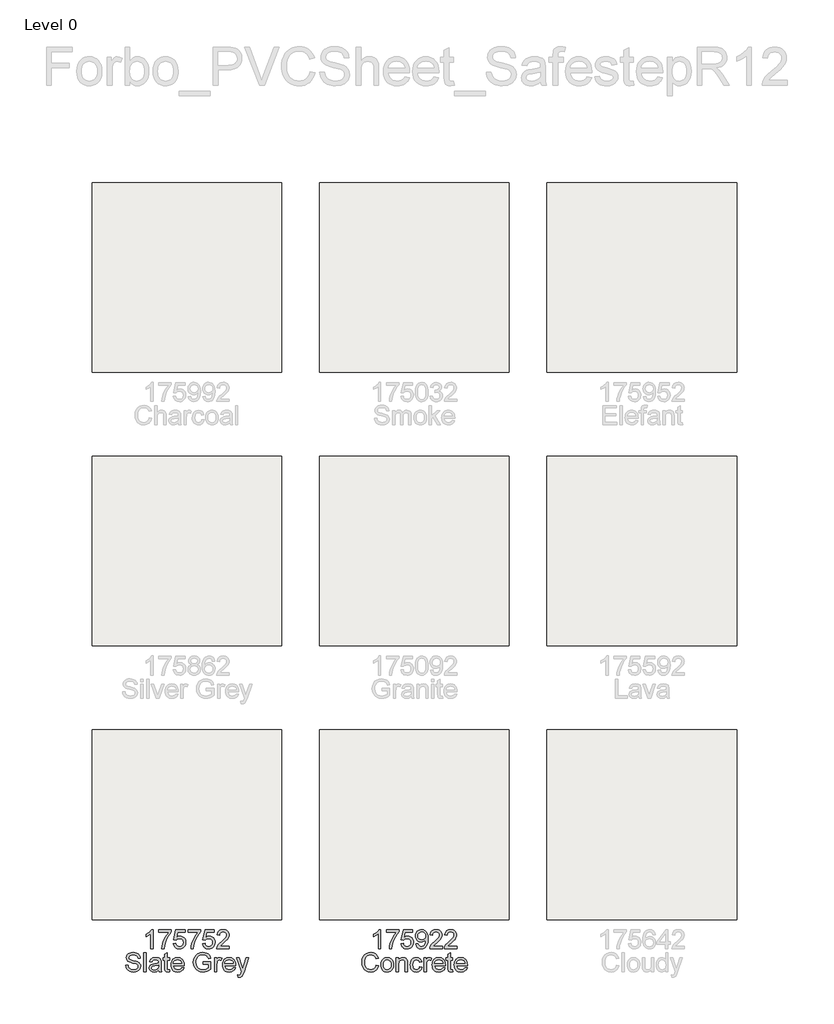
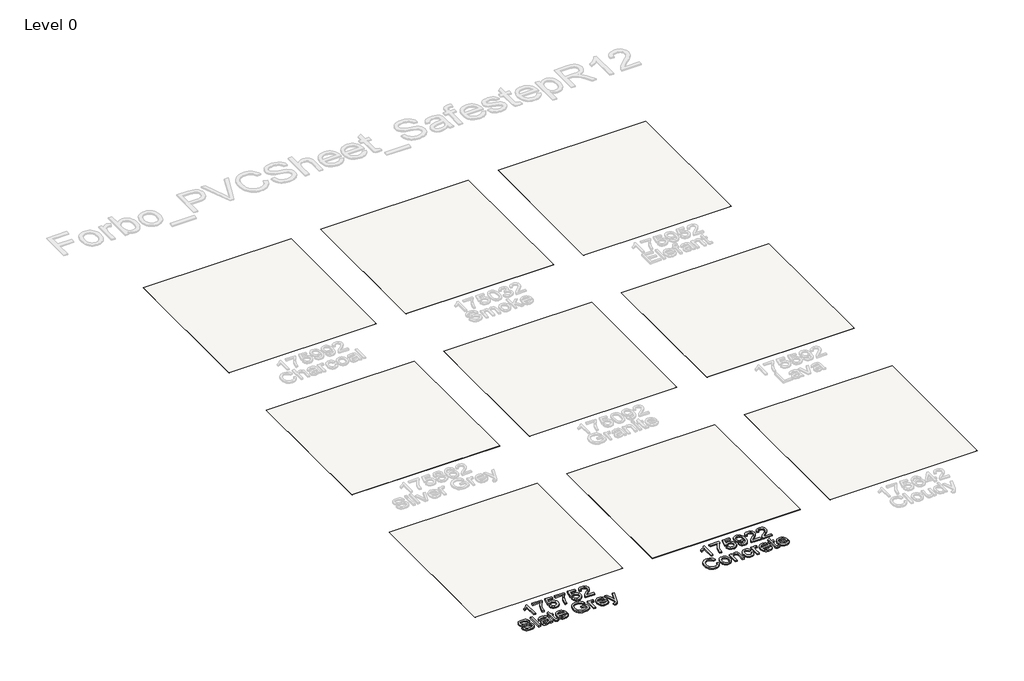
# One storey, part 1 of 5: 9 coverings, 2 proxies.
"""IFC4 building model written with IfcOpenShell, lengths in millimetres."""

from ifc_helpers import new_model, si_unit, frame, origin, origin_with_axes, place, context, project, spatial, polyline, outline, extrude, element, save

model = new_model("IFC4")

# Units and contexts
model_context = context("Model", 3, world=origin())
ifc_project = project(units=[si_unit("LENGTHUNIT", "METRE", prefix="MILLI")], contexts=[model_context])

# Site, building, storey
site = spatial("IfcSite", under=ifc_project)
building = spatial("IfcBuilding", under=site)
storey = spatial("IfcBuildingStorey", under=building, Name="Level 0", Elevation=0.0)

# Proxies
placement = place(None, origin())
element("IfcBuildingElementProxy", 1, Name="Floor Name", ObjectType="Floor Name", at=placement, inside=storey, context=model_context, shape_type="SweptSolid", body=[
    extrude(outline(polyline([(20690.377598, -11200.5851985), (20652.7064817, -11200.5851985), (20652.7064817, -10965.7293328), (20617.0219282, -10991.1499786), (20577.3642491, -11010.1694778), (20577.3642491, -10974.5585007), (20606.9511586, -10958.4636634), (20632.5833366, -10939.3154055), (20652.7892552, -10918.9531371), (20666.0973864, -10899.216268), (20690.377598, -10899.216268), (20690.377598, -11200.5851985)])), origin_with_axes(), (0.0, 0.0, 1.0), 25.0),
    extrude(outline(polyline([(20779.8464993, -10941.5962739), (20779.8464993, -10903.9251576), (20977.6198599, -10903.9251576), (20977.6198599, -10934.3857868), (20949.430902, -10970.0611433), (20921.5178556, -11015.4301903), (20896.8973531, -11066.3542555), (20878.5860268, -11118.6946664), (20869.6097061, -11157.8557047), (20864.606511, -11200.5851985), (20826.9353947, -11200.5851985), (20831.0096878, -11161.7552539), (20841.9081919, -11115.6044576), (20859.3366014, -11066.6853493), (20883.0006107, -11019.5504687), (20910.6285486, -10976.9405366), (20939.9487436, -10941.5962739), (20779.8464993, -10941.5962739)])), origin_with_axes(), (0.0, 0.0, 1.0), 25.0),
    extrude(outline(polyline([(21010.5820866, -11120.5340763), (21048.253203, -11115.8251868), (21055.1693845, -11138.4407325), (21067.2359139, -11154.6367373), (21084.397609, -11164.3764131), (21106.5992874, -11167.6229717), (21133.6018258, -11163.1072202), (21153.8353356, -11149.5599658), (21166.4720821, -11128.5447068), (21170.6843309, -11101.6249418), (21166.7387965, -11076.2778723), (21154.9021934, -11056.8904912), (21135.0825509, -11044.5848384), (21107.1878986, -11040.4829542), (21088.9133605, -11042.1200291), (21074.1153072, -11047.0312537), (21052.9620925, -11064.0274019), (21015.2909762, -11059.3185123), (21048.253203, -10903.9251576), (21194.2287786, -10903.9251576), (21194.2287786, -10941.5962739), (21078.7138322, -10941.5962739), (21062.6006008, -11024.590452), (21089.5111687, -11008.2564914), (21117.7093236, -11002.8118379), (21136.0551389, -11004.4994965), (21152.9064335, -11009.5624725), (21168.2632076, -11018.0007658), (21182.125461, -11029.8143763), (21193.60108, -11044.2813358), (21201.7979507, -11060.6796757), (21206.7160731, -11079.0093961), (21208.3554473, -11099.270497), (21202.4509412, -11136.9416133), (21195.0703087, -11153.7354264), (21184.7374232, -11169.1680761), (21169.0840443, -11184.9732063), (21150.8187032, -11196.262585), (21129.9414, -11203.0362123), (21106.4521346, -11205.294088), (21069.4524029, -11199.4907496), (21053.7737321, -11192.2365765), (21039.9758581, -11182.0807341), (21028.4956405, -11169.5290603), (21019.7699395, -11155.0873927), (21010.5820866, -11120.5340763)])), origin_with_axes(), (0.0, 0.0, 1.0), 25.0),
    extrude(outline(polyline([(21241.317674, -10941.5962739), (21241.317674, -10903.9251576), (21439.0910346, -10903.9251576), (21439.0910346, -10934.3857868), (21410.9020767, -10970.0611433), (21382.9890304, -11015.4301903), (21358.3685278, -11066.3542555), (21340.0572015, -11118.6946664), (21331.0808808, -11157.8557047), (21326.0776857, -11200.5851985), (21288.4065694, -11200.5851985), (21292.4808625, -11161.7552539), (21303.3793666, -11115.6044576), (21320.8077761, -11066.6853493), (21344.4717855, -11019.5504687), (21372.0997233, -10976.9405366), (21401.4199183, -10941.5962739), (21241.317674, -10941.5962739)])), origin_with_axes(), (0.0, 0.0, 1.0), 25.0),
    extrude(outline(polyline([(21472.0532614, -11120.5340763), (21509.7243777, -11115.8251868), (21516.6405592, -11138.4407325), (21528.7070887, -11154.6367373), (21545.8687837, -11164.3764131), (21568.0704621, -11167.6229717), (21595.0730006, -11163.1072202), (21615.3065103, -11149.5599658), (21627.9432569, -11128.5447068), (21632.1555057, -11101.6249418), (21628.2099713, -11076.2778723), (21616.3733681, -11056.8904912), (21596.5537256, -11044.5848384), (21568.6590733, -11040.4829542), (21550.3845352, -11042.1200291), (21535.586482, -11047.0312537), (21514.4332672, -11064.0274019), (21476.7621509, -11059.3185123), (21509.7243777, -10903.9251576), (21655.6999534, -10903.9251576), (21655.6999534, -10941.5962739), (21540.1850069, -10941.5962739), (21524.0717755, -11024.590452), (21550.9823435, -11008.2564914), (21579.1804984, -11002.8118379), (21597.5263136, -11004.4994965), (21614.3776083, -11009.5624725), (21629.7343823, -11018.0007658), (21643.5966357, -11029.8143763), (21655.0722547, -11044.2813358), (21663.2691254, -11060.6796757), (21668.1872479, -11079.0093961), (21669.826622, -11099.270497), (21663.922116, -11136.9416133), (21656.5414835, -11153.7354264), (21646.2085979, -11169.1680761), (21630.555219, -11184.9732063), (21612.289878, -11196.262585), (21591.4125747, -11203.0362123), (21567.9233093, -11205.294088), (21530.9235777, -11199.4907496), (21515.2449069, -11192.2365765), (21501.4470328, -11182.0807341), (21489.9668153, -11169.5290603), (21481.2411142, -11155.0873927), (21472.0532614, -11120.5340763)])), origin_with_axes(), (0.0, 0.0, 1.0), 25.0),
    extrude(outline(polyline([(21895.8533198, -11162.9140822), (21895.8533198, -11200.5851985), (21698.0799592, -11200.5851985), (21702.1266612, -11174.6127296), (21711.4156816, -11154.3148405), (21725.0089213, -11134.6239568), (21744.6722139, -11114.013368), (21772.1713931, -11090.9563639), (21812.8223535, -11054.8487461), (21837.2129298, -11028.1956955), (21849.4082179, -11006.5642342), (21853.473314, -10985.5213841), (21849.6381442, -10966.6582348), (21838.1326348, -10950.9772648), (21820.4467079, -10940.4098544), (21798.0702855, -10936.8873843), (21774.5718231, -10940.327081), (21756.3156791, -10950.646171), (21744.5342582, -10967.0353138), (21740.4599651, -10988.6851693), (21702.7888488, -10983.9762797), (21711.9215193, -10947.5375681), (21720.4678779, -10933.0016308), (21731.6675854, -10920.9213058), (21745.2631244, -10911.4253518), (21760.9969775, -10904.6425275), (21798.8796259, -10899.216268), (21819.0694497, -10900.7245842), (21837.0381859, -10905.2495328), (21852.7858345, -10912.7911137), (21866.3123956, -10923.3493269), (21877.1764108, -10936.1424233), (21884.9364216, -10950.3886536), (21889.5924281, -10966.0880177), (21891.1444303, -10983.2405157), (21889.4705672, -11001.2575365), (21884.448978, -11018.9618575), (21875.5370367, -11036.9696811), (21862.1921173, -11055.8972098), (21840.9193409, -11078.4943613), (21808.2238286, -11107.5110537), (21764.8873296, -11143.7474302), (21747.8911814, -11162.9140822), (21895.8533198, -11162.9140822)])), origin_with_axes(), (0.0, 0.0, 1.0), 25.0),
    extrude(outline(polyline([(20257.1597605, -11462.9140822), (20294.8308768, -11462.9140822), (20299.1534903, -11483.8189766), (20306.9709827, -11500.6219867), (20319.1662708, -11513.957709), (20336.6222715, -11524.46074), (20357.9594272, -11531.2757539), (20381.7981805, -11533.5474253), (20402.7858483, -11531.8275769), (20421.161554, -11526.6680319), (20436.0515777, -11518.5010517), (20446.5821998, -11507.7588974), (20452.8453908, -11495.4256535), (20454.9331211, -11482.4854043), (20453.3696227, -11469.8762489), (20448.6791272, -11458.9777448), (20439.1509835, -11449.6795274), (20423.0745403, -11441.8712321), (20368.2233349, -11427.487046), (20332.2168846, -11417.9680994), (20309.1782746, -11408.9090053), (20290.4254899, -11396.2354706), (20277.1357529, -11380.8763973), (20269.2170929, -11363.1628792), (20266.5775396, -11343.4260101), (20269.8424923, -11321.3622875), (20279.6373504, -11300.7884869), (20295.7045966, -11283.3508803), (20317.7867133, -11270.6957397), (20344.2926111, -11262.997809), (20373.6312002, -11260.431832), (20405.4162046, -11263.1173706), (20433.2280834, -11271.1739863), (20456.0735553, -11284.4361322), (20472.9593389, -11302.7382615), (20483.6463109, -11324.9399399), (20487.8953479, -11349.9007333), (20450.2242316, -11349.9007333), (20443.3080501, -11327.4231434), (20428.8870759, -11311.1995474), (20406.3543037, -11301.3770981), (20375.1027282, -11298.1029483), (20343.1153887, -11301.3403099), (20321.1712277, -11311.0523946), (20308.4792989, -11325.3446101), (20304.2486559, -11342.3223642), (20307.2468942, -11356.7985207), (20316.241609, -11368.4419858), (20337.5051883, -11378.8530463), (20377.7514785, -11389.4848359), (20419.2853558, -11399.5831967), (20444.4116961, -11408.3939705), (20465.8868075, -11422.0607866), (20480.8688018, -11438.9281761), (20489.6703785, -11458.8121979), (20492.6042374, -11481.5289111), (20489.2289201, -11504.7514621), (20479.1029682, -11526.5944555), (20462.6402489, -11545.3932255), (20440.2546295, -11559.4831059), (20413.3348645, -11568.2846827), (20383.2697085, -11571.2185416), (20346.3619473, -11568.0547564), (20315.9840916, -11558.5634009), (20291.7866533, -11542.7076869), (20273.4201447, -11520.4508262), (20261.6295268, -11493.3379232), (20257.1597605, -11462.9140822)])), origin_with_axes(), (0.0, 0.0, 1.0), 25.0),
    extrude(outline(polyline([(20544.4020224, -11566.509652), (20544.4020224, -11265.1407216), (20582.0731387, -11265.1407216), (20582.0731387, -11566.509652), (20544.4020224, -11566.509652)])), origin_with_axes(), (0.0, 0.0, 1.0), 25.0),
    extrude(outline(polyline([(20779.8464993, -11538.2563148), (20761.8478727, -11553.6889645), (20743.3158172, -11563.7873253), (20723.8272685, -11569.3607375), (20702.9591623, -11571.2185416), (20671.4776605, -11566.7487753), (20648.2551096, -11553.3394766), (20633.9353029, -11532.9772082), (20629.162034, -11507.6485328), (20630.9646558, -11492.0319421), (20636.3725212, -11477.8500912), (20644.7142454, -11465.7099853), (20655.3184439, -11456.2186299), (20681.695583, -11443.8577948), (20714.2899277, -11438.1924121), (20752.8071726, -11432.2327238), (20779.6257701, -11425.2429659), (20779.8464993, -11416.8552564), (20777.2529312, -11400.0430492), (20769.472227, -11389.0433776), (20752.0714086, -11380.8763973), (20727.8279852, -11378.1540705), (20705.3871834, -11379.9658893), (20689.7154105, -11385.4013458), (20679.0284385, -11395.4537213), (20671.5420399, -11411.1162973), (20633.8709236, -11406.4074077), (20640.4100261, -11385.806016), (20650.168096, -11369.6192082), (20664.0556413, -11357.2399791), (20682.9831699, -11348.0613233), (20706.1321445, -11342.3775465), (20732.6840275, -11340.4829542), (20758.1506586, -11342.1568173), (20778.3381831, -11347.1784065), (20793.5593006, -11354.7291845), (20804.126711, -11363.9906137), (20811.134863, -11375.4409408), (20815.6782056, -11389.5584123), (20817.5176156, -11422.5206391), (20817.5176156, -11469.3888053), (20819.430602, -11534.8350122), (20826.9353947, -11566.509652), (20789.2642783, -11566.509652), (20779.8464993, -11538.2563148)]), holes=[polyline([(20779.8464993, -11462.9140822), (20719.0723937, -11474.4655768), (20686.6619899, -11480.572418), (20671.9834983, -11490.5052318), (20666.8331504, -11504.9997824), (20669.6382506, -11516.2017892), (20678.0535512, -11525.380445), (20691.8951113, -11531.5056802), (20710.9789898, -11533.5474253), (20731.2124995, -11531.294148), (20749.0915645, -11524.5343164), (20763.5861151, -11514.5739114), (20773.6660818, -11502.7189141), (20778.135848, -11490.5052318), (20779.6257701, -11473.58266), (20779.8464993, -11462.9140822)])]), origin_with_axes(), (0.0, 0.0, 1.0), 25.0),
    extrude(outline(polyline([(20949.3665226, -11535.0925296), (20954.0754122, -11567.613298), (20925.8956514, -11571.2185416), (20907.8142513, -11569.6550431), (20894.3313762, -11564.9645476), (20884.8032325, -11557.7356664), (20878.5860268, -11548.5570107), (20875.1647242, -11532.7932672), (20874.02429, -11505.8091228), (20874.02429, -11382.86296), (20845.7709528, -11382.86296), (20845.7709528, -11345.1918437), (20874.02429, -11345.1918437), (20874.02429, -11291.407496), (20911.6954063, -11269.2609999), (20911.6954063, -11345.1918437), (20949.3665226, -11345.1918437), (20949.3665226, -11382.86296), (20911.6954063, -11382.86296), (20911.6954063, -11504.7054768), (20913.6819691, -11524.1296462), (20920.119904, -11531.0090395), (20932.9589857, -11533.5474253), (20949.3665226, -11535.0925296)])), origin_with_axes(), (0.0, 0.0, 1.0), 25.0),
    extrude(outline(polyline([(21141.9895353, -11500.5851985), (21178.9248876, -11505.294088), (21165.6167565, -11533.124361), (21144.3807683, -11553.9280878), (21115.6951697, -11566.8959281), (21080.0382073, -11571.2185416), (21056.6639051, -11569.3538397), (21035.8371856, -11563.7597341), (21017.558049, -11554.4362248), (21001.8264952, -11541.3833118), (20989.1759531, -11524.9642785), (20980.1398515, -11505.5424084), (20974.7181906, -11483.1177015), (20972.9109703, -11457.6901579), (20974.7365847, -11431.4003908), (20980.2134279, -11408.2284236), (20989.3415, -11388.1742563), (21002.1208008, -11371.237889), (21017.8109679, -11357.782605), (21035.6716387, -11348.1716879), (21055.7028134, -11342.4051376), (21077.9044918, -11340.4829542), (21099.3910995, -11342.4005391), (21118.8221667, -11348.1532938), (21136.1976932, -11357.7412183), (21151.517679, -11371.1643126), (21164.0233676, -11388.0638917), (21172.9560023, -11408.0812708), (21178.3155831, -11431.2164498), (21180.10211, -11457.4694287), (21179.8813808, -11467.6229717), (21010.5820866, -11467.6229717), (21017.102795, -11495.8211267), (21032.2503362, -11516.5512771), (21054.1117237, -11529.2983882), (21080.7739713, -11533.5474253), (21100.8235401, -11531.5792566), (21117.7093236, -11525.6747506), (21131.4313221, -11515.4660252), (21141.9895353, -11500.5851985)]), holes=[polyline([(21010.5820866, -11429.9518554), (21142.4309937, -11429.9518554), (21137.3358281, -11410.0494395), (21127.3478319, -11395.8124063), (21105.3852768, -11382.5686544), (21077.757339, -11378.1540705), (21052.3642842, -11381.6765406), (21031.3674194, -11392.2439509), (21016.7717012, -11408.7158672), (21010.5820866, -11429.9518554)])]), origin_with_axes(), (0.0, 0.0, 1.0), 25.0),
    extrude(outline(polyline([(21481.4710405, -11448.7874136), (21481.4710405, -11411.1162973), (21603.9021685, -11411.1162973), (21603.9021685, -11523.7617642), (21574.1497121, -11544.4551264), (21543.4591567, -11559.2991649), (21511.9040785, -11568.2386974), (21479.5580541, -11571.2185416), (21437.2976099, -11566.4820609), (21399.1022618, -11552.2726188), (21367.3724397, -11529.0868561), (21344.5085737, -11497.4214133), (21330.6854077, -11459.4375973), (21326.0776857, -11417.2967148), (21330.6670136, -11374.8523296), (21344.4349973, -11335.3693945), (21366.8114196, -11302.2508178), (21397.2260636, -11278.8995082), (21434.2717805, -11265.0487511), (21476.5414217, -11260.431832), (21507.572268, -11263.1081736), (21535.4761174, -11271.1371981), (21558.9745798, -11283.9394915), (21576.7892654, -11300.9356397), (21589.9686379, -11322.9441801), (21599.5611609, -11350.7836501), (21564.8331006, -11360.5693111), (21557.0799875, -11340.7128804), (21547.6530114, -11325.7308862), (21535.1818118, -11314.4369089), (21518.2960282, -11305.6445292), (21498.163686, -11299.9883436), (21475.9528105, -11298.1029483), (21449.9527505, -11300.1354964), (21427.723481, -11306.2331404), (21409.3477753, -11315.6325254), (21394.908407, -11327.5702962), (21375.5210259, -11356.5961856), (21366.691858, -11385.0334638), (21363.748802, -11415.7516104), (21367.2896662, -11451.7764548), (21377.9122588, -11481.4185465), (21395.2946831, -11504.4663535), (21419.1150423, -11520.7083436), (21446.9913005, -11530.3376548), (21476.5414217, -11533.5474253), (21502.6334522, -11531.1286011), (21528.0816893, -11523.8721288), (21550.1822001, -11513.8749356), (21566.2310522, -11503.2339489), (21566.2310522, -11448.7874136), (21481.4710405, -11448.7874136)])), origin_with_axes(), (0.0, 0.0, 1.0), 25.0),
    extrude(outline(polyline([(21660.4088429, -11566.509652), (21660.4088429, -11345.1918437), (21693.3710697, -11345.1918437), (21693.3710697, -11377.9333413), (21705.5479637, -11358.9506303), (21716.7683646, -11347.7670177), (21728.0255536, -11342.3039701), (21740.3128123, -11340.4829542), (21759.074794, -11343.3892219), (21778.1310814, -11352.1080252), (21765.5495171, -11385.8795924), (21752.3057653, -11380.085451), (21739.0620135, -11378.1540705), (21727.8140215, -11380.0118746), (21717.761646, -11385.5852868), (21709.6406509, -11394.4512429), (21704.1868004, -11406.1866785), (21699.6066695, -11427.2295286), (21698.0799592, -11450.1853651), (21698.0799592, -11566.509652), (21660.4088429, -11566.509652)])), origin_with_axes(), (0.0, 0.0, 1.0), 25.0),
    extrude(outline(polyline([(21956.6274254, -11500.5851985), (21993.5627778, -11505.294088), (21980.2546466, -11533.124361), (21959.0186584, -11553.9280878), (21930.3330598, -11566.8959281), (21894.6760975, -11571.2185416), (21871.3017952, -11569.3538397), (21850.4750757, -11563.7597341), (21832.1959391, -11554.4362248), (21816.4643853, -11541.3833118), (21803.8138432, -11524.9642785), (21794.7777417, -11505.5424084), (21789.3560808, -11483.1177015), (21787.5488605, -11457.6901579), (21789.3744749, -11431.4003908), (21794.8513181, -11408.2284236), (21803.9793901, -11388.1742563), (21816.7586909, -11371.237889), (21832.448858, -11357.782605), (21850.3095288, -11348.1716879), (21870.3407035, -11342.4051376), (21892.5423819, -11340.4829542), (21914.0289897, -11342.4005391), (21933.4600568, -11348.1532938), (21950.8355833, -11357.7412183), (21966.1555691, -11371.1643126), (21978.6612577, -11388.0638917), (21987.5938924, -11408.0812708), (21992.9534732, -11431.2164498), (21994.7400001, -11457.4694287), (21994.5192709, -11467.6229717), (21825.2199768, -11467.6229717), (21831.7406851, -11495.8211267), (21846.8882263, -11516.5512771), (21868.7496138, -11529.2983882), (21895.4118614, -11533.5474253), (21915.4614302, -11531.5792566), (21932.3472138, -11525.6747506), (21946.0692122, -11515.4660252), (21956.6274254, -11500.5851985)]), holes=[polyline([(21825.2199768, -11429.9518554), (21957.0688838, -11429.9518554), (21951.9737182, -11410.0494395), (21941.985722, -11395.8124063), (21920.0231669, -11382.5686544), (21892.3952291, -11378.1540705), (21867.0021744, -11381.6765406), (21846.0053095, -11392.2439509), (21831.4095913, -11408.7158672), (21825.2199768, -11429.9518554)])]), origin_with_axes(), (0.0, 0.0, 1.0), 25.0),
    extrude(outline(polyline([(22032.4111165, -11651.2696637), (22027.7022269, -11614.996499), (22046.8320907, -11618.3074369), (22064.7111556, -11614.1503704), (22075.6740391, -11602.5620876), (22085.9747349, -11574.8237851), (22088.9177909, -11565.7003116), (22008.8666688, -11345.1918437), (22048.5979242, -11345.1918437), (22091.0515065, -11468.0644301), (22105.8403627, -11517.2134647), (22120.6292189, -11473.8033892), (22164.2600235, -11345.1918437), (22203.6969734, -11345.1918437), (22126.6624836, -11571.8071528), (22106.6497031, -11620.9561873), (22096.4041895, -11636.6463544), (22084.7975126, -11647.5172674), (22071.3146374, -11653.8632318), (22055.4405293, -11655.9785533), (22032.4111165, -11651.2696637)])), origin_with_axes(), (0.0, 0.0, 1.0), 25.0),
])
element("IfcBuildingElementProxy", 2, Name="Floor Name", ObjectType="Floor Name", at=placement, inside=storey, context=model_context, shape_type="SweptSolid", body=[
    extrude(outline(polyline([(24290.377598, -11200.5851985), (24252.7064817, -11200.5851985), (24252.7064817, -10965.7293328), (24217.0219282, -10991.1499786), (24177.3642491, -11010.1694778), (24177.3642491, -10974.5585007), (24206.9511586, -10958.4636634), (24232.5833366, -10939.3154055), (24252.7892552, -10918.9531371), (24266.0973864, -10899.216268), (24290.377598, -10899.216268), (24290.377598, -11200.5851985)])), origin_with_axes(), (0.0, 0.0, 1.0), 25.0),
    extrude(outline(polyline([(24379.8464993, -10941.5962739), (24379.8464993, -10903.9251576), (24577.6198599, -10903.9251576), (24577.6198599, -10934.3857868), (24549.430902, -10970.0611433), (24521.5178556, -11015.4301903), (24496.8973531, -11066.3542555), (24478.5860268, -11118.6946664), (24469.6097061, -11157.8557047), (24464.606511, -11200.5851985), (24426.9353947, -11200.5851985), (24431.0096878, -11161.7552539), (24441.9081919, -11115.6044576), (24459.3366014, -11066.6853493), (24483.0006107, -11019.5504687), (24510.6285486, -10976.9405366), (24539.9487436, -10941.5962739), (24379.8464993, -10941.5962739)])), origin_with_axes(), (0.0, 0.0, 1.0), 25.0),
    extrude(outline(polyline([(24610.5820866, -11120.5340763), (24648.253203, -11115.8251868), (24655.1693845, -11138.4407325), (24667.2359139, -11154.6367373), (24684.397609, -11164.3764131), (24706.5992874, -11167.6229717), (24733.6018258, -11163.1072202), (24753.8353356, -11149.5599658), (24766.4720821, -11128.5447068), (24770.6843309, -11101.6249418), (24766.7387965, -11076.2778723), (24754.9021934, -11056.8904912), (24735.0825509, -11044.5848384), (24707.1878986, -11040.4829542), (24688.9133605, -11042.1200291), (24674.1153072, -11047.0312537), (24652.9620925, -11064.0274019), (24615.2909762, -11059.3185123), (24648.253203, -10903.9251576), (24794.2287786, -10903.9251576), (24794.2287786, -10941.5962739), (24678.7138322, -10941.5962739), (24662.6006008, -11024.590452), (24689.5111687, -11008.2564914), (24717.7093236, -11002.8118379), (24736.0551389, -11004.4994965), (24752.9064335, -11009.5624725), (24768.2632076, -11018.0007658), (24782.125461, -11029.8143763), (24793.60108, -11044.2813358), (24801.7979507, -11060.6796757), (24806.7160731, -11079.0093961), (24808.3554473, -11099.270497), (24802.4509412, -11136.9416133), (24795.0703087, -11153.7354264), (24784.7374232, -11169.1680761), (24769.0840443, -11184.9732063), (24750.8187032, -11196.262585), (24729.9414, -11203.0362123), (24706.4521346, -11205.294088), (24669.4524029, -11199.4907496), (24653.7737321, -11192.2365765), (24639.9758581, -11182.0807341), (24628.4956405, -11169.5290603), (24619.7699395, -11155.0873927), (24610.5820866, -11120.5340763)])), origin_with_axes(), (0.0, 0.0, 1.0), 25.0),
    extrude(outline(polyline([(24846.0265636, -11125.2429659), (24883.6976799, -11120.5340763), (24890.1356148, -11141.9172173), (24900.6202516, -11156.4761473), (24914.8940731, -11164.8362656), (24932.6995616, -11167.6229717), (24948.6748373, -11165.829547), (24963.196979, -11160.4492728), (24975.2635085, -11152.0707604), (24983.8719472, -11141.2826209), (24996.195994, -11108.5411233), (25001.6406475, -11064.8367423), (25001.4199183, -11057.4791024), (24988.3693045, -11073.4083928), (24971.2903829, -11086.0267452), (24951.4155581, -11094.2489078), (24929.9772349, -11096.9896286), (24912.0820751, -11095.3157656), (24895.6262536, -11090.2941763), (24880.6097704, -11081.9248609), (24867.0326255, -11070.2078194), (24855.7823342, -11055.7546555), (24847.7464119, -11039.1769731), (24842.9248585, -11020.4747722), (24841.317674, -10999.6480527), (24843.0030334, -10978.126956), (24848.0591116, -10958.8131513), (24856.4859085, -10941.7066385), (24868.2834243, -10926.8074177), (24882.6193258, -10914.7362897), (24898.66128, -10906.1140554), (24916.409287, -10900.9407149), (24935.8633468, -10899.216268), (24963.9603342, -10903.1526054), (24989.5373299, -10914.9616174), (25010.9296679, -10934.054693), (25026.4726822, -10959.8432208), (25035.9364465, -10995.4909862), (25039.0910346, -11044.1617741), (25035.9456436, -11095.766421), (25026.5094704, -11135.6540263), (25010.8652885, -11165.6272119), (24989.0958715, -11187.4885995), (24962.1393183, -11200.8427159), (24930.933728, -11205.294088), (24898.7256594, -11200.0425725), (24873.029102, -11184.2880261), (24855.0580665, -11159.0237301), (24846.0265636, -11125.2429659)]), holes=[polyline([(25001.4199183, -10998.7651359), (24997.3548223, -10973.2341255), (24985.1595341, -10953.5892269), (24966.2320055, -10941.062845), (24941.9701879, -10936.8873843), (24916.8070594, -10941.3847417), (24896.6471261, -10954.8768139), (24883.4033743, -10975.5241909), (24878.9887903, -11001.4874627), (24883.164251, -11024.7651959), (24895.6906329, -11043.2420692), (24915.3539256, -11055.2994015), (24940.9401183, -11059.3185123), (24965.0087979, -11055.2994015), (24984.3869819, -11043.2420692), (24997.1616842, -11024.0846143), (25001.4199183, -10998.7651359)])]), origin_with_axes(), (0.0, 0.0, 1.0), 25.0),
    extrude(outline(polyline([(25265.1177325, -11162.9140822), (25265.1177325, -11200.5851985), (25067.3443719, -11200.5851985), (25071.3910738, -11174.6127296), (25080.6800942, -11154.3148405), (25094.2733339, -11134.6239568), (25113.9366265, -11114.013368), (25141.4358057, -11090.9563639), (25182.0867662, -11054.8487461), (25206.4773424, -11028.1956955), (25218.6726306, -11006.5642342), (25222.7377266, -10985.5213841), (25218.9025568, -10966.6582348), (25207.3970474, -10950.9772648), (25189.7111205, -10940.4098544), (25167.3346981, -10936.8873843), (25143.8362357, -10940.327081), (25125.5800917, -10950.646171), (25113.7986708, -10967.0353138), (25109.7243777, -10988.6851693), (25072.0532614, -10983.9762797), (25081.1859319, -10947.5375681), (25089.7322905, -10933.0016308), (25100.931998, -10920.9213058), (25114.527537, -10911.4253518), (25130.2613901, -10904.6425275), (25168.1440385, -10899.216268), (25188.3338623, -10900.7245842), (25206.3025985, -10905.2495328), (25222.0502471, -10912.7911137), (25235.5768083, -10923.3493269), (25246.4408234, -10936.1424233), (25254.2008343, -10950.3886536), (25258.8568408, -10966.0880177), (25260.4088429, -10983.2405157), (25258.7349798, -11001.2575365), (25253.7133906, -11018.9618575), (25244.8014493, -11036.9696811), (25231.4565299, -11055.8972098), (25210.1837535, -11078.4943613), (25177.4882412, -11107.5110537), (25134.1517422, -11143.7474302), (25117.155594, -11162.9140822), (25265.1177325, -11162.9140822)])), origin_with_axes(), (0.0, 0.0, 1.0), 25.0),
    extrude(outline(polyline([(25495.8533198, -11162.9140822), (25495.8533198, -11200.5851985), (25298.0799592, -11200.5851985), (25302.1266612, -11174.6127296), (25311.4156816, -11154.3148405), (25325.0089213, -11134.6239568), (25344.6722139, -11114.013368), (25372.1713931, -11090.9563639), (25412.8223535, -11054.8487461), (25437.2129298, -11028.1956955), (25449.4082179, -11006.5642342), (25453.473314, -10985.5213841), (25449.6381442, -10966.6582348), (25438.1326348, -10950.9772648), (25420.4467079, -10940.4098544), (25398.0702855, -10936.8873843), (25374.5718231, -10940.327081), (25356.3156791, -10950.646171), (25344.5342582, -10967.0353138), (25340.4599651, -10988.6851693), (25302.7888488, -10983.9762797), (25311.9215193, -10947.5375681), (25320.4678779, -10933.0016308), (25331.6675854, -10920.9213058), (25345.2631244, -10911.4253518), (25360.9969775, -10904.6425275), (25398.8796259, -10899.216268), (25419.0694497, -10900.7245842), (25437.0381859, -10905.2495328), (25452.7858345, -10912.7911137), (25466.3123956, -10923.3493269), (25477.1764108, -10936.1424233), (25484.9364216, -10950.3886536), (25489.5924281, -10966.0880177), (25491.1444303, -10983.2405157), (25489.4705672, -11001.2575365), (25484.448978, -11018.9618575), (25475.5370367, -11036.9696811), (25462.1921173, -11055.8972098), (25440.9193409, -11078.4943613), (25408.2238286, -11107.5110537), (25364.8873296, -11143.7474302), (25347.8911814, -11162.9140822), (25495.8533198, -11162.9140822)])), origin_with_axes(), (0.0, 0.0, 1.0), 25.0),
    extrude(outline(polyline([(24219.744255, -11459.382415), (24257.4153713, -11469.0944997), (24249.9611624, -11492.521685), (24240.032947, -11512.9920188), (24227.6307252, -11530.505501), (24212.7544971, -11545.0621317), (24195.7399548, -11556.505561), (24176.9227907, -11564.6794391), (24156.3030049, -11569.5837659), (24133.8805973, -11571.2185416), (24090.1854133, -11566.2705287), (24055.4849441, -11551.4264902), (24028.8870759, -11527.2014608), (24009.4996947, -11494.1104754), (23997.6630915, -11455.2069544), (23993.7175571, -11413.5443184), (23998.1781263, -11369.6008141), (24011.5598339, -11331.6537863), (24033.1637041, -11300.9080486), (24062.290761, -11278.5684144), (24096.8348804, -11264.9659776), (24134.6899377, -11260.431832), (24175.9938887, -11266.2995499), (24193.9626249, -11273.6341971), (24210.1425349, -11283.9027033), (24224.2669042, -11296.8337555), (24236.0690185, -11312.1560406), (24252.7064817, -11349.9743097), (24215.0353654, -11358.9506303), (24201.9755546, -11331.4790424), (24184.1332778, -11312.6342872), (24161.2878059, -11301.735783), (24133.2184097, -11298.1029483), (24100.8631882, -11302.1312562), (24074.2837141, -11314.2161797), (24054.1145837, -11333.0885261), (24040.9903935, -11357.4791024), (24033.7891035, -11385.0518579), (24031.3886734, -11413.470742), (24034.2305619, -11448.2723788), (24042.7562271, -11478.365126), (24057.2875659, -11502.5993524), (24078.146475, -11519.8254268), (24103.1532536, -11530.1169257), (24130.1282009, -11533.5474253), (24161.5729145, -11528.8753239), (24187.7753096, -11514.8590199), (24207.5581639, -11491.645666), (24219.744255, -11459.382415)])), origin_with_axes(), (0.0, 0.0, 1.0), 25.0),
    extrude(outline(polyline([(24295.0864876, -11455.8507479), (24297.1236341, -11427.1881419), (24303.2350738, -11402.4894645), (24313.4208065, -11381.7547155), (24327.6808324, -11364.9838951), (24342.0374272, -11354.2647334), (24357.8839442, -11346.6081894), (24375.2203832, -11342.014263), (24394.0467443, -11340.4829542), (24414.8297778, -11342.347656), (24433.6216499, -11347.9417616), (24450.4223608, -11357.265271), (24465.2319104, -11370.318184), (24477.3191332, -11386.6590424), (24485.9528637, -11405.8463877), (24491.1331021, -11427.8802199), (24492.8598482, -11452.7605391), (24489.8064276, -11490.8179315), (24480.646166, -11519.7886386), (24465.6457776, -11541.4844793), (24445.071977, -11557.7172723), (24420.6354155, -11567.8432243), (24394.0467443, -11571.2185416), (24372.9602082, -11569.3607375), (24353.9935921, -11563.7873253), (24337.1468959, -11554.4983049), (24322.4201198, -11541.4936764), (24310.4616557, -11524.9941689), (24301.9198956, -11505.2205116), (24296.7948396, -11482.1727046), (24295.0864876, -11455.8507479)]), holes=[polyline([(24332.7576039, -11455.7771715), (24337.1170055, -11489.8706354), (24350.1952105, -11514.1600441), (24369.8768972, -11528.70058), (24394.0467443, -11533.5474253), (24418.1062268, -11528.6729888), (24437.7511253, -11514.0496795), (24450.8293302, -11489.438374), (24455.1887319, -11454.5999491), (24450.8017391, -11421.4997666), (24437.6407607, -11397.5414516), (24417.968271, -11383.0009158), (24394.0467443, -11378.1540705), (24369.8768972, -11382.9825217), (24350.1952105, -11397.4678752), (24337.1170055, -11421.7021017), (24332.7576039, -11455.7771715)])]), origin_with_axes(), (0.0, 0.0, 1.0), 25.0),
    extrude(outline(polyline([(24535.239854, -11566.509652), (24535.239854, -11345.1918437), (24572.9109703, -11345.1918437), (24572.9109703, -11376.0939313), (24585.9983723, -11360.5141288), (24601.7161306, -11349.3856985), (24620.0642451, -11342.7086403), (24641.0427158, -11340.4829542), (24659.6115596, -11342.2763789), (24676.6169048, -11347.6566531), (24690.7987557, -11355.9523921), (24700.8971165, -11366.4922112), (24712.1910937, -11394.1937255), (24714.1776565, -11430.614043), (24714.1776565, -11566.509652), (24676.5065402, -11566.509652), (24676.5065402, -11435.6908145), (24672.1655326, -11402.3607058), (24666.1598591, -11392.437089), (24656.8248534, -11384.7391582), (24644.8594915, -11379.8003424), (24630.9627492, -11378.1540705), (24608.8990265, -11381.8512845), (24590.0910595, -11392.9429267), (24582.5747705, -11401.9974223), (24577.2059926, -11414.3720529), (24572.9109703, -11449.0817192), (24572.9109703, -11566.509652), (24535.239854, -11566.509652)])), origin_with_axes(), (0.0, 0.0, 1.0), 25.0),
    extrude(outline(polyline([(24907.2421276, -11486.4585299), (24944.9132439, -11491.1674194), (24934.4102129, -11524.6722721), (24914.6733439, -11549.9917504), (24887.5604408, -11565.9118438), (24854.9293078, -11571.2185416), (24833.801385, -11569.3676353), (24814.8577615, -11563.8149164), (24798.0984374, -11554.560385), (24783.5234126, -11541.604041), (24771.7258968, -11525.1896062), (24763.2990999, -11505.5608025), (24758.2430217, -11482.7176298), (24756.5576623, -11456.6600883), (24759.4363389, -11423.1368415), (24768.0723688, -11394.0833609), (24782.6037076, -11370.6216866), (24803.1683111, -11353.8738588), (24827.7704195, -11343.8306803), (24854.4142731, -11340.4829542), (24886.2452627, -11345.0814791), (24911.6934997, -11358.8770539), (24929.9496437, -11381.1339147), (24940.2043543, -11411.1162973), (24902.533238, -11415.8251868), (24895.69983, -11399.3900587), (24885.0588432, -11387.6086378), (24871.1988891, -11380.5177123), (24854.7085786, -11378.1540705), (24830.3639876, -11382.8077777), (24811.0409858, -11396.7688994), (24798.4318304, -11420.7915937), (24794.2287786, -11455.6300187), (24798.3398599, -11490.9374932), (24810.6731038, -11515.0429609), (24829.6466177, -11528.9213092), (24853.6785091, -11533.5474253), (24873.1854519, -11530.6595516), (24889.1791216, -11521.9959306), (24900.8133897, -11507.3358331), (24907.2421276, -11486.4585299)])), origin_with_axes(), (0.0, 0.0, 1.0), 25.0),
    extrude(outline(polyline([(24977.8754706, -11566.509652), (24977.8754706, -11345.1918437), (25010.8376974, -11345.1918437), (25010.8376974, -11377.9333413), (25023.0145914, -11358.9506303), (25034.2349923, -11347.7670177), (25045.4921813, -11342.3039701), (25057.77944, -11340.4829542), (25076.5414217, -11343.3892219), (25095.5977091, -11352.1080252), (25083.0161449, -11385.8795924), (25069.772393, -11380.085451), (25056.5286412, -11378.1540705), (25045.2806492, -11380.0118746), (25035.2282737, -11385.5852868), (25027.1072786, -11394.4512429), (25021.6534281, -11406.1866785), (25017.0732972, -11427.2295286), (25015.5465869, -11450.1853651), (25015.5465869, -11566.509652), (24977.8754706, -11566.509652)])), origin_with_axes(), (0.0, 0.0, 1.0), 25.0),
    extrude(outline(polyline([(25274.0940531, -11500.5851985), (25311.0294055, -11505.294088), (25297.7212743, -11533.124361), (25276.4852861, -11553.9280878), (25247.7996875, -11566.8959281), (25212.1427252, -11571.2185416), (25188.7684229, -11569.3538397), (25167.9417034, -11563.7597341), (25149.6625668, -11554.4362248), (25133.931013, -11541.3833118), (25121.2804709, -11524.9642785), (25112.2443694, -11505.5424084), (25106.8227085, -11483.1177015), (25105.0154882, -11457.6901579), (25106.8411026, -11431.4003908), (25112.3179458, -11408.2284236), (25121.4460178, -11388.1742563), (25134.2253186, -11371.237889), (25149.9154857, -11357.782605), (25167.7761565, -11348.1716879), (25187.8073312, -11342.4051376), (25210.0090096, -11340.4829542), (25231.4956174, -11342.4005391), (25250.9266845, -11348.1532938), (25268.302211, -11357.7412183), (25283.6221968, -11371.1643126), (25296.1278854, -11388.0638917), (25305.0605201, -11408.0812708), (25310.4201009, -11431.2164498), (25312.2066278, -11457.4694287), (25311.9858987, -11467.6229717), (25142.6866045, -11467.6229717), (25149.2073128, -11495.8211267), (25164.354854, -11516.5512771), (25186.2162416, -11529.2983882), (25212.8784892, -11533.5474253), (25232.9280579, -11531.5792566), (25249.8138415, -11525.6747506), (25263.5358399, -11515.4660252), (25274.0940531, -11500.5851985)]), holes=[polyline([(25142.6866045, -11429.9518554), (25274.5355115, -11429.9518554), (25269.4403459, -11410.0494395), (25259.4523497, -11395.8124063), (25237.4897946, -11382.5686544), (25209.8618568, -11378.1540705), (25184.4688021, -11381.6765406), (25163.4719372, -11392.2439509), (25148.876219, -11408.7158672), (25142.6866045, -11429.9518554)])]), origin_with_axes(), (0.0, 0.0, 1.0), 25.0),
    extrude(outline(polyline([(25429.9288663, -11535.0925296), (25434.6377558, -11567.613298), (25406.457995, -11571.2185416), (25388.3765949, -11569.6550431), (25374.8937198, -11564.9645476), (25365.3655762, -11557.7356664), (25359.1483704, -11548.5570107), (25355.7270679, -11532.7932672), (25354.5866337, -11505.8091228), (25354.5866337, -11382.86296), (25326.3332965, -11382.86296), (25326.3332965, -11345.1918437), (25354.5866337, -11345.1918437), (25354.5866337, -11291.407496), (25392.25775, -11269.2609999), (25392.25775, -11345.1918437), (25429.9288663, -11345.1918437), (25429.9288663, -11382.86296), (25392.25775, -11382.86296), (25392.25775, -11504.7054768), (25394.2443128, -11524.1296462), (25400.6822477, -11531.0090395), (25413.5213293, -11533.5474253), (25429.9288663, -11535.0925296)])), origin_with_axes(), (0.0, 0.0, 1.0), 25.0),
    extrude(outline(polyline([(25622.551879, -11500.5851985), (25659.4872313, -11505.294088), (25646.1791001, -11533.124361), (25624.9431119, -11553.9280878), (25596.2575134, -11566.8959281), (25560.600551, -11571.2185416), (25537.2262487, -11569.3538397), (25516.3995293, -11563.7597341), (25498.1203926, -11554.4362248), (25482.3888388, -11541.3833118), (25469.7382967, -11524.9642785), (25460.7021952, -11505.5424084), (25455.2805343, -11483.1177015), (25453.473314, -11457.6901579), (25455.2989284, -11431.4003908), (25460.7757716, -11408.2284236), (25469.9038436, -11388.1742563), (25482.6831444, -11371.237889), (25498.3733115, -11357.782605), (25516.2339824, -11348.1716879), (25536.265157, -11342.4051376), (25558.4668354, -11340.4829542), (25579.9534432, -11342.4005391), (25599.3845103, -11348.1532938), (25616.7600368, -11357.7412183), (25632.0800227, -11371.1643126), (25644.5857112, -11388.0638917), (25653.5183459, -11408.0812708), (25658.8779267, -11431.2164498), (25660.6644537, -11457.4694287), (25660.4437245, -11467.6229717), (25491.1444303, -11467.6229717), (25497.6651387, -11495.8211267), (25512.8126798, -11516.5512771), (25534.6740674, -11529.2983882), (25561.336315, -11533.5474253), (25581.3858837, -11531.5792566), (25598.2716673, -11525.6747506), (25611.9936657, -11515.4660252), (25622.551879, -11500.5851985)]), holes=[polyline([(25491.1444303, -11429.9518554), (25622.9933374, -11429.9518554), (25617.8981717, -11410.0494395), (25607.9101756, -11395.8124063), (25585.9476205, -11382.5686544), (25558.3196826, -11378.1540705), (25532.9266279, -11381.6765406), (25511.929763, -11392.2439509), (25497.3340449, -11408.7158672), (25491.1444303, -11429.9518554)])]), origin_with_axes(), (0.0, 0.0, 1.0), 25.0),
])

# Coverings
element("IfcCovering", 3, ObjectType=" Forbo_PVCSheet_SafestepR12_Charcoal_17559", at=placement, inside=storey, context=model_context, shape_type="SweptSolid", body=[
    extrude(outline(polyline([(19722.4821159, -2088.7362914), (19722.4821159, 911.2637086), (22722.4821159, 911.2637086), (22722.4821159, -2088.7362914), (19722.4821159, -2088.7362914)])), frame((0.0, 0.0, -2.0), z_axis=(0.0, 0.0, 1.0), x_axis=(1.0, 0.0, 0.0)), (0.0, 0.0, 1.0), 2.0),
])
element("IfcCovering", 4, ObjectType=" Forbo_PVCSheet_SafestepR12_Smoke_175032", at=placement, inside=storey, context=model_context, shape_type="SweptSolid", body=[
    extrude(outline(polyline([(23322.4821159, -2088.7362914), (23322.4821159, 911.2637086), (26322.4821159, 911.2637086), (26322.4821159, -2088.7362914), (23322.4821159, -2088.7362914)])), frame((0.0, 0.0, -2.0), z_axis=(0.0, 0.0, 1.0), x_axis=(1.0, 0.0, 0.0)), (0.0, 0.0, 1.0), 2.0),
])
element("IfcCovering", 5, ObjectType=" Forbo_PVCSheet_SafestepR12_Elefant_175952", at=placement, inside=storey, context=model_context, shape_type="SweptSolid", body=[
    extrude(outline(polyline([(26922.4821159, -2088.7362914), (26922.4821159, 911.2637086), (29922.4821159, 911.2637086), (29922.4821159, -2088.7362914), (26922.4821159, -2088.7362914)])), frame((0.0, 0.0, -2.0), z_axis=(0.0, 0.0, 1.0), x_axis=(1.0, 0.0, 0.0)), (0.0, 0.0, 1.0), 2.0),
])
element("IfcCovering", 6, ObjectType=" Forbo_PVCSheet_SafestepR12_SilverGrey_175862", at=placement, inside=storey, context=model_context, shape_type="SweptSolid", body=[
    extrude(outline(polyline([(19722.4821159, -6414.660745), (19722.4821159, -3414.660745), (22722.4821159, -3414.660745), (22722.4821159, -6414.660745), (19722.4821159, -6414.660745)])), frame((0.0, 0.0, -2.0), z_axis=(0.0, 0.0, 1.0), x_axis=(1.0, 0.0, 0.0)), (0.0, 0.0, 1.0), 2.0),
])
element("IfcCovering", 7, ObjectType=" Forbo_PVCSheet_SafestepR12_Granite_175092", at=placement, inside=storey, context=model_context, shape_type="SweptSolid", body=[
    extrude(outline(polyline([(23322.4821159, -6414.660745), (23322.4821159, -3414.660745), (26322.4821159, -3414.660745), (26322.4821159, -6414.660745), (23322.4821159, -6414.660745)])), frame((0.0, 0.0, -2.0), z_axis=(0.0, 0.0, 1.0), x_axis=(1.0, 0.0, 0.0)), (0.0, 0.0, 1.0), 2.0),
])
element("IfcCovering", 8, ObjectType=" Forbo_PVCSheet_SafestepR12_Lava_175592", at=placement, inside=storey, context=model_context, shape_type="SweptSolid", body=[
    extrude(outline(polyline([(26922.4821159, -6414.660745), (26922.4821159, -3414.660745), (29922.4821159, -3414.660745), (29922.4821159, -6414.660745), (26922.4821159, -6414.660745)])), frame((0.0, 0.0, -2.0), z_axis=(0.0, 0.0, 1.0), x_axis=(1.0, 0.0, 0.0)), (0.0, 0.0, 1.0), 2.0),
])
element("IfcCovering", 9, ObjectType=" Forbo_PVCSheet_SafestepR12_SlateGrey_175752", at=placement, inside=storey, context=model_context, shape_type="SweptSolid", body=[
    extrude(outline(polyline([(19722.4821159, -10740.5851985), (19722.4821159, -7740.5851985), (22722.4821159, -7740.5851985), (22722.4821159, -10740.5851985), (19722.4821159, -10740.5851985)])), frame((0.0, 0.0, -2.0), z_axis=(0.0, 0.0, 1.0), x_axis=(1.0, 0.0, 0.0)), (0.0, 0.0, 1.0), 2.0),
])
element("IfcCovering", 10, ObjectType=" Forbo_PVCSheet_SafestepR12_Concrete_175922", at=placement, inside=storey, context=model_context, shape_type="SweptSolid", body=[
    extrude(outline(polyline([(23322.4821159, -10740.5851985), (23322.4821159, -7740.5851985), (26322.4821159, -7740.5851985), (26322.4821159, -10740.5851985), (23322.4821159, -10740.5851985)])), frame((0.0, 0.0, -2.0), z_axis=(0.0, 0.0, 1.0), x_axis=(1.0, 0.0, 0.0)), (0.0, 0.0, 1.0), 2.0),
])
element("IfcCovering", 11, ObjectType=" Forbo_PVCSheet_SafestepR12_Cloudy_175642", at=placement, inside=storey, context=model_context, shape_type="SweptSolid", body=[
    extrude(outline(polyline([(26922.4821159, -10740.5851985), (26922.4821159, -7740.5851985), (29922.4821159, -7740.5851985), (29922.4821159, -10740.5851985), (26922.4821159, -10740.5851985)])), frame((0.0, 0.0, -2.0), z_axis=(0.0, 0.0, 1.0), x_axis=(1.0, 0.0, 0.0)), (0.0, 0.0, 1.0), 2.0),
])

save(model, "model.ifc")
